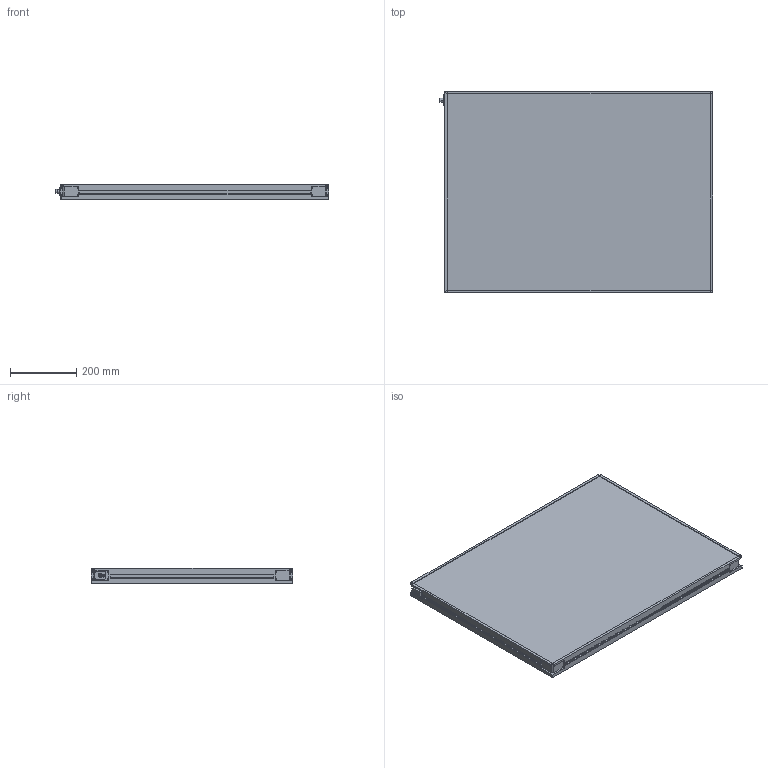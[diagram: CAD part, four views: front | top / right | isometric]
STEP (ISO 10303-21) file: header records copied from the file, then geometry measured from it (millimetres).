
FILE_DESCRIPTION (( 'STEP AP214' ), '1' );
FILE_NAME ('MBACK-xxxx-xxx-M1_CLIENT600x800.STEP', '2022-03-31T16:27:47', ( '' ), ( '' ), 'SwSTEP 2.0', 'SolidWorks 2020', '' );
FILE_SCHEMA (( 'AUTOMOTIVE_DESIGN' ));
Length unit declared in the file: millimetre
Products named in the file (1): MBACK-xxxx-xxx-M1_CLIENT600x800
Bounding box: 825.9 x 608 x 45.5 mm (x, y, z)
Volume: 20433619.6 mm3; surface area: 1170503.6 mm2
Topology: 1 solids, 1 shells, 442 faces, 1144 edges, 760 vertices
Faces by surface type: plane 249, cylinder 105, bspline 80, cone 8
Entity records: 17236 total; most frequent: CARTESIAN_POINT 6699, ORIENTED_EDGE 2288, DIRECTION 1936, EDGE_CURVE 1144, VERTEX_POINT 760, VECTOR 758, LINE 758, AXIS2_PLACEMENT_3D 589
